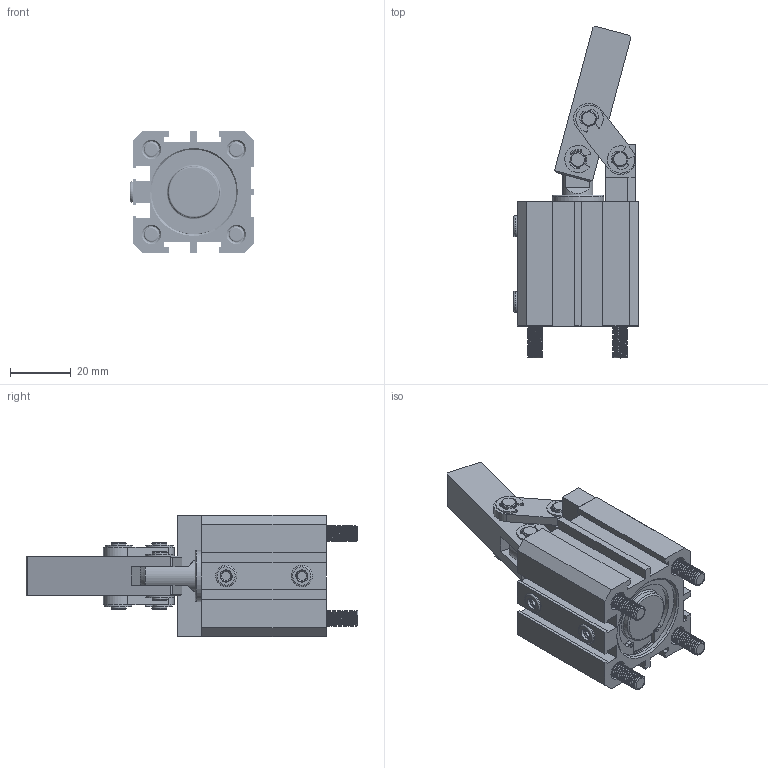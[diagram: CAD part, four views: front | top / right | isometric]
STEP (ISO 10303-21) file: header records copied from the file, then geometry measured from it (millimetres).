
FILE_DESCRIPTION(/* description */ ('STEP AP203'),/* implementation_level */ '2;1');
FILE_NAME(/* name */ 'E:\SERWER_ZAPAS\MODELE brakujace\PNEUMATIC\CALC(STEP)\CALC-25\CALC-25_OTWARTY.stp',/* time_stamp */ '2019-02-06T15:32:47+01:00',/* author */ ('Admin'),/* organization */ ('Î¢ÈíÖÐ¹ú'),/* preprocessor_version */ 'ST-DEVELOPER v17.2',/* originating_system */ 'Autodesk Inventor 2019',/* authorisation */ '');
FILE_SCHEMA (('AUTOMOTIVE_DESIGN { 1 0 10303 214 3 1 1 }'));
Length unit declared in the file: millimetre
Products named in the file (17): CALC-25_OTWARTY; ºó¸Ç; »îÈû¸Ë; ±¾Ìå; »îÈû; ¸ÕÌ×; M5¶ÂÍ·225; Áã¼þ2ÈÏ; ³¤Ïú; ¶ÌÏú; 233; Á¬¸Ë; ¿¨»É01; Á¬¸ËÖ§³Å×ù; Ñ¹±Û; m555; Ç°¸Ç
Assembly tree (27 placements, depth 2):
  CALC-25_OTWARTY
    ºó¸Ç
    233  x2
    ¿¨»É01  x6
    Áã¼þ2ÈÏ  x2
    »îÈû¸Ë
    ±¾Ìå
    »îÈû
    ¸ÕÌ×
    M5¶ÂÍ·225  x2
    Á¬¸Ë  x2
    ³¤Ïú  x2
    m555  x2
    ¶ÌÏú
    Á¬¸ËÖ§³Å×ù
    Ñ¹±Û
    Ç°¸Ç
Bounding box: 41.2 x 109.5 x 40 mm (x, y, z)
Volume: 58021 mm3; surface area: 42927.4 mm2
Topology: 27 solids, 27 shells, 757 faces, 2107 edges, 1465 vertices
Faces by surface type: cylinder 340, plane 288, torus 65, cone 41, bspline 23
Full cylindrical faces by diameter (mm): 1.071 x4, 1.5 x2, 3 x2, 4 x4, 4.2 x6, 4.7 x2, 5 x146, 5.4 x4, 5.5 x2, 6.5 x1, 7 x2, 8 x4, 8.5 x8, 9 x2, 10 x4, 11 x1, 12 x1, 13 x1, 14 x1, 16 x1, 16.702 x1, 17 x2, 19 x1, 21 x1, 22 x1, 24.702 x2, 24.8 x2, 25 x1, 28 x8, 29.5 x2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
Entity records: 32729 total; most frequent: CARTESIAN_POINT 19108, DIRECTION 2783, ORIENTED_EDGE 2724, EDGE_CURVE 1362, AXIS2_PLACEMENT_3D 1110, VERTEX_POINT 957, CIRCLE 589, EDGE_LOOP 575
